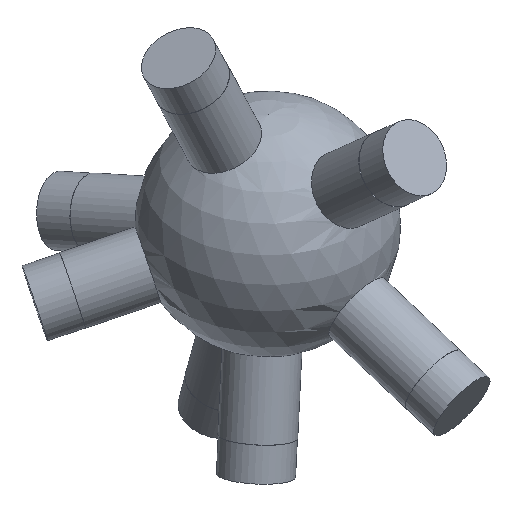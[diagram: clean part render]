
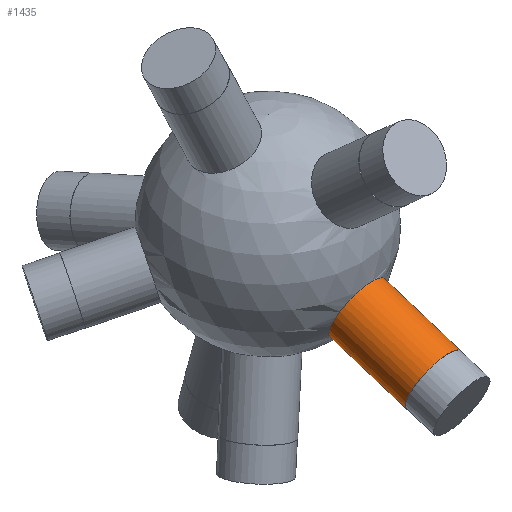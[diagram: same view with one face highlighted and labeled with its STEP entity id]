
A CAD part, isometric view. The second image highlights one B-rep face of the part: STEP entity #1435.
In plain terms, the highlighted cylindrical face has radius 6 mm (diameter 12 mm), a full revolution.
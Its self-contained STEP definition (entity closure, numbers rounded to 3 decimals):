
#33 = SPHERICAL_SURFACE('',#34,20.);
#34 = AXIS2_PLACEMENT_3D('',#35,#36,#37);
#35 = CARTESIAN_POINT('',(0.,0.,0.));
#36 = DIRECTION('',(0.,0.,1.));
#37 = DIRECTION('',(1.,0.,-0.));
#819 = EDGE_CURVE('',#820,#820,#822,.T.);
#820 = VERTEX_POINT('',#821);
#821 = CARTESIAN_POINT('',(1.383,-15.228,
    -12.892));
#822 = SURFACE_CURVE('',#823,(#828,#883),.PCURVE_S1.);
#823 = CIRCLE('',#824,6.);
#824 = AXIS2_PLACEMENT_3D('',#825,#826,#827);
#825 = CARTESIAN_POINT('',(1.383,-17.548,-7.359
    ));
#826 = DIRECTION('',(0.072,-0.92,-0.386)
  );
#827 = DIRECTION('',(0.,0.387,-0.922)
  );
#828 = PCURVE('',#33,#829);
#829 = DEFINITIONAL_REPRESENTATION('',(#830),#882);
#830 = B_SPLINE_CURVE_WITH_KNOTS('',8,(#831,#832,#833,#834,#835,#836,
    #837,#838,#839,#840,#841,#842,#843,#844,#845,#846,#847,#848,#849,
    #850,#851,#852,#853,#854,#855,#856,#857,#858,#859,#860,#861,#862,
    #863,#864,#865,#866,#867,#868,#869,#870,#871,#872,#873,#874,#875,
    #876,#877,#878,#879,#880,#881),.UNSPECIFIED.,.T.,.F.,(9,7,7,7,7,7,7,
    9),(0.,0.785,1.473,2.675,3.577,
    4.93,5.607,6.283),.UNSPECIFIED.);
#831 = CARTESIAN_POINT('',(4.803,-0.701));
#832 = CARTESIAN_POINT('',(4.841,-0.699));
#833 = CARTESIAN_POINT('',(4.88,-0.694));
#834 = CARTESIAN_POINT('',(4.917,-0.685));
#835 = CARTESIAN_POINT('',(4.952,-0.673));
#836 = CARTESIAN_POINT('',(4.983,-0.656));
#837 = CARTESIAN_POINT('',(5.012,-0.637));
#838 = CARTESIAN_POINT('',(5.037,-0.615));
#839 = CARTESIAN_POINT('',(5.076,-0.571));
#840 = CARTESIAN_POINT('',(5.091,-0.548));
#841 = CARTESIAN_POINT('',(5.103,-0.524));
#842 = CARTESIAN_POINT('',(5.112,-0.5));
#843 = CARTESIAN_POINT('',(5.119,-0.474));
#844 = CARTESIAN_POINT('',(5.122,-0.449));
#845 = CARTESIAN_POINT('',(5.123,-0.423));
#846 = CARTESIAN_POINT('',(5.119,-0.352));
#847 = CARTESIAN_POINT('',(5.108,-0.307));
#848 = CARTESIAN_POINT('',(5.09,-0.265));
#849 = CARTESIAN_POINT('',(5.065,-0.225));
#850 = CARTESIAN_POINT('',(5.035,-0.19));
#851 = CARTESIAN_POINT('',(5.,-0.159));
#852 = CARTESIAN_POINT('',(4.961,-0.135));
#853 = CARTESIAN_POINT('',(4.888,-0.104));
#854 = CARTESIAN_POINT('',(4.855,-0.094));
#855 = CARTESIAN_POINT('',(4.821,-0.089));
#856 = CARTESIAN_POINT('',(4.786,-0.087));
#857 = CARTESIAN_POINT('',(4.752,-0.09));
#858 = CARTESIAN_POINT('',(4.718,-0.096));
#859 = CARTESIAN_POINT('',(4.686,-0.107));
#860 = CARTESIAN_POINT('',(4.608,-0.142));
#861 = CARTESIAN_POINT('',(4.566,-0.172));
#862 = CARTESIAN_POINT('',(4.528,-0.208));
#863 = CARTESIAN_POINT('',(4.497,-0.251));
#864 = CARTESIAN_POINT('',(4.474,-0.299));
#865 = CARTESIAN_POINT('',(4.46,-0.349));
#866 = CARTESIAN_POINT('',(4.456,-0.401));
#867 = CARTESIAN_POINT('',(4.465,-0.476));
#868 = CARTESIAN_POINT('',(4.471,-0.501));
#869 = CARTESIAN_POINT('',(4.48,-0.526));
#870 = CARTESIAN_POINT('',(4.491,-0.549));
#871 = CARTESIAN_POINT('',(4.505,-0.572));
#872 = CARTESIAN_POINT('',(4.523,-0.593));
#873 = CARTESIAN_POINT('',(4.543,-0.612));
#874 = CARTESIAN_POINT('',(4.588,-0.647));
#875 = CARTESIAN_POINT('',(4.614,-0.663));
#876 = CARTESIAN_POINT('',(4.642,-0.676));
#877 = CARTESIAN_POINT('',(4.672,-0.686));
#878 = CARTESIAN_POINT('',(4.704,-0.694));
#879 = CARTESIAN_POINT('',(4.736,-0.699));
#880 = CARTESIAN_POINT('',(4.77,-0.701));
#881 = CARTESIAN_POINT('',(4.803,-0.701));
#882 = ( GEOMETRIC_REPRESENTATION_CONTEXT(2) 
PARAMETRIC_REPRESENTATION_CONTEXT() REPRESENTATION_CONTEXT('2D SPACE',''
  ) );
#883 = PCURVE('',#884,#889);
#884 = CYLINDRICAL_SURFACE('',#885,6.);
#885 = AXIS2_PLACEMENT_3D('',#886,#887,#888);
#886 = CARTESIAN_POINT('',(0.,0.,0.));
#887 = DIRECTION('',(0.072,-0.92,-0.386)
  );
#888 = DIRECTION('',(0.,0.387,-0.922)
  );
#889 = DEFINITIONAL_REPRESENTATION('',(#890),#894);
#890 = LINE('',#891,#892);
#891 = CARTESIAN_POINT('',(0.,19.079));
#892 = VECTOR('',#893,1.);
#893 = DIRECTION('',(1.,0.));
#894 = ( GEOMETRIC_REPRESENTATION_CONTEXT(2) 
PARAMETRIC_REPRESENTATION_CONTEXT() REPRESENTATION_CONTEXT('2D SPACE',''
  ) );
#1435 = ADVANCED_FACE('',(#1436),#884,.T.);
#1436 = FACE_BOUND('',#1437,.T.);
#1437 = EDGE_LOOP('',(#1438,#1461,#1488,#1489));
#1438 = ORIENTED_EDGE('',*,*,#1439,.T.);
#1439 = EDGE_CURVE('',#820,#1440,#1442,.T.);
#1440 = VERTEX_POINT('',#1441);
#1441 = CARTESIAN_POINT('',(2.568,-30.273,
    -19.201));
#1442 = SEAM_CURVE('',#1443,(#1447,#1454),.PCURVE_S1.);
#1443 = LINE('',#1444,#1445);
#1444 = CARTESIAN_POINT('',(0.,2.32,
    -5.533));
#1445 = VECTOR('',#1446,1.);
#1446 = DIRECTION('',(0.072,-0.92,-0.386)
  );
#1447 = PCURVE('',#884,#1448);
#1448 = DEFINITIONAL_REPRESENTATION('',(#1449),#1453);
#1449 = LINE('',#1450,#1451);
#1450 = CARTESIAN_POINT('',(6.283,-0.));
#1451 = VECTOR('',#1452,1.);
#1452 = DIRECTION('',(0.,1.));
#1453 = ( GEOMETRIC_REPRESENTATION_CONTEXT(2) 
PARAMETRIC_REPRESENTATION_CONTEXT() REPRESENTATION_CONTEXT('2D SPACE',''
  ) );
#1454 = PCURVE('',#884,#1455);
#1455 = DEFINITIONAL_REPRESENTATION('',(#1456),#1460);
#1456 = LINE('',#1457,#1458);
#1457 = CARTESIAN_POINT('',(0.,-0.));
#1458 = VECTOR('',#1459,1.);
#1459 = DIRECTION('',(0.,1.));
#1460 = ( GEOMETRIC_REPRESENTATION_CONTEXT(2) 
PARAMETRIC_REPRESENTATION_CONTEXT() REPRESENTATION_CONTEXT('2D SPACE',''
  ) );
#1461 = ORIENTED_EDGE('',*,*,#1462,.F.);
#1462 = EDGE_CURVE('',#1440,#1440,#1463,.T.);
#1463 = SURFACE_CURVE('',#1464,(#1469,#1476),.PCURVE_S1.);
#1464 = CIRCLE('',#1465,6.);
#1465 = AXIS2_PLACEMENT_3D('',#1466,#1467,#1468);
#1466 = CARTESIAN_POINT('',(2.568,-32.593,
    -13.668));
#1467 = DIRECTION('',(0.072,-0.92,-0.386)
  );
#1468 = DIRECTION('',(0.,0.387,-0.922)
  );
#1469 = PCURVE('',#884,#1470);
#1470 = DEFINITIONAL_REPRESENTATION('',(#1471),#1475);
#1471 = LINE('',#1472,#1473);
#1472 = CARTESIAN_POINT('',(0.,35.436));
#1473 = VECTOR('',#1474,1.);
#1474 = DIRECTION('',(1.,0.));
#1475 = ( GEOMETRIC_REPRESENTATION_CONTEXT(2) 
PARAMETRIC_REPRESENTATION_CONTEXT() REPRESENTATION_CONTEXT('2D SPACE',''
  ) );
#1476 = PCURVE('',#1477,#1482);
#1477 = PLANE('',#1478);
#1478 = AXIS2_PLACEMENT_3D('',#1479,#1480,#1481);
#1479 = CARTESIAN_POINT('',(2.568,-32.593,
    -13.668));
#1480 = DIRECTION('',(0.072,-0.92,-0.386)
  );
#1481 = DIRECTION('',(0.,0.387,-0.922
    ));
#1482 = DEFINITIONAL_REPRESENTATION('',(#1483),#1487);
#1483 = CIRCLE('',#1484,6.);
#1484 = AXIS2_PLACEMENT_2D('',#1485,#1486);
#1485 = CARTESIAN_POINT('',(0.,0.));
#1486 = DIRECTION('',(1.,0.));
#1487 = ( GEOMETRIC_REPRESENTATION_CONTEXT(2) 
PARAMETRIC_REPRESENTATION_CONTEXT() REPRESENTATION_CONTEXT('2D SPACE',''
  ) );
#1488 = ORIENTED_EDGE('',*,*,#1439,.F.);
#1489 = ORIENTED_EDGE('',*,*,#819,.T.);
